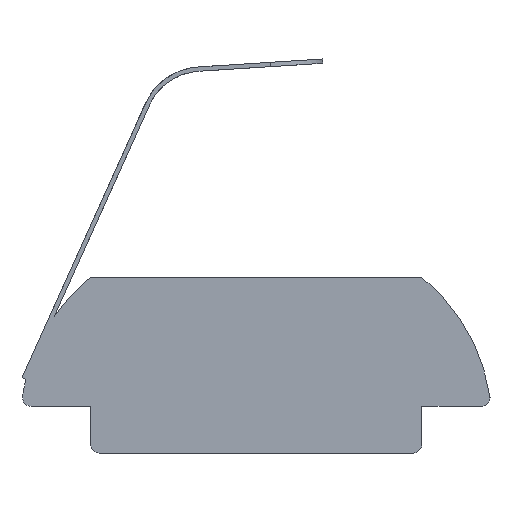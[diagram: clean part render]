
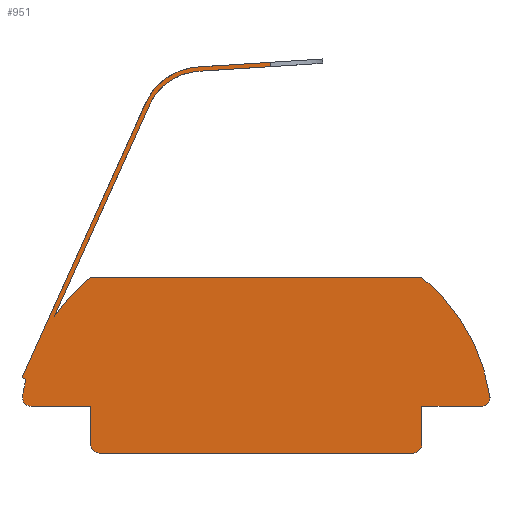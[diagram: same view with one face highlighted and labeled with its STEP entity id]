
A CAD part, left-side view. The second image highlights one B-rep face of the part: STEP entity #951.
In plain terms, the highlighted planar face has unit normal (-1, 0, 0).
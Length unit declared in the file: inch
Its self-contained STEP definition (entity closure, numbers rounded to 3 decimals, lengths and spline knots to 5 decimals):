
#205=DIRECTION('',(0.,-0.998,0.064));
#206=VECTOR('',#205,0.082);
#207=CARTESIAN_POINT('',(-0.3937,0.06484,
0.33944));
#208=LINE('',#207,#206);
#209=CARTESIAN_POINT('',(-0.3937,0.06243,
0.27248));
#210=DIRECTION('',(1.,0.,0.));
#211=DIRECTION('',(0.,0.893,0.45));
#212=AXIS2_PLACEMENT_3D('',#209,#210,#211);
#214=DIRECTION('',(0.,-0.411,0.912));
#215=VECTOR('',#214,0.27049);
#216=CARTESIAN_POINT('',(-0.3937,0.2333,
0.056));
#217=LINE('',#216,#215);
#218=CARTESIAN_POINT('',(-0.3937,0.05231,
-0.06907));
#219=DIRECTION('',(-1.,0.,0.));
#220=DIRECTION('',(0.,0.632,0.775));
#221=AXIS2_PLACEMENT_3D('',#218,#219,#220);
#223=DIRECTION('',(0.,1.,0.));
#224=VECTOR('',#223,0.3825);
#225=CARTESIAN_POINT('',(-0.3937,-0.19125,0.1015));
#226=LINE('',#225,#224);
#227=CARTESIAN_POINT('',(-0.3937,-0.05231,
-0.06907));
#228=DIRECTION('',(-1.,0.,0.));
#229=DIRECTION('',(0.,-0.989,0.15));
#230=AXIS2_PLACEMENT_3D('',#227,#228,#229);
#232=CARTESIAN_POINT('',(-0.3937,-0.25992,-0.0375));
#233=DIRECTION('',(-1.,0.,0.));
#234=DIRECTION('',(0.,0.,-1.));
#235=AXIS2_PLACEMENT_3D('',#232,#233,#234);
#237=DIRECTION('',(0.,-1.,0.));
#238=VECTOR('',#237,0.06867);
#239=CARTESIAN_POINT('',(-0.3937,-0.19125,-0.0475));
#240=LINE('',#239,#238);
#241=DIRECTION('',(0.,0.,1.));
#242=VECTOR('',#241,0.044);
#243=CARTESIAN_POINT('',(-0.3937,-0.19125,-0.0915));
#244=LINE('',#243,#242);
#245=CARTESIAN_POINT('',(-0.3937,-0.18125,-0.0915));
#246=DIRECTION('',(-1.,0.,0.));
#247=DIRECTION('',(0.,0.,-1.));
#248=AXIS2_PLACEMENT_3D('',#245,#246,#247);
#250=DIRECTION('',(0.,-1.,0.));
#251=VECTOR('',#250,0.3625);
#252=CARTESIAN_POINT('',(-0.3937,0.18125,-0.1015));
#253=LINE('',#252,#251);
#254=CARTESIAN_POINT('',(-0.3937,0.18125,-0.0915));
#255=DIRECTION('',(-1.,0.,0.));
#256=DIRECTION('',(0.,1.,0.));
#257=AXIS2_PLACEMENT_3D('',#254,#255,#256);
#259=DIRECTION('',(0.,0.,-1.));
#260=VECTOR('',#259,0.044);
#261=CARTESIAN_POINT('',(-0.3937,0.19125,-0.0475));
#262=LINE('',#261,#260);
#263=DIRECTION('',(0.,-1.,0.));
#264=VECTOR('',#263,0.06867);
#265=CARTESIAN_POINT('',(-0.3937,0.25992,-0.0475));
#266=LINE('',#265,#264);
#267=CARTESIAN_POINT('',(-0.3937,0.25992,-0.0375));
#268=DIRECTION('',(-1.,0.,0.));
#269=DIRECTION('',(0.,0.989,0.15));
#270=AXIS2_PLACEMENT_3D('',#267,#268,#269);
#272=CARTESIAN_POINT('',(-0.3937,0.05231,
-0.06907));
#273=DIRECTION('',(-1.,0.,0.));
#274=DIRECTION('',(0.,0.971,0.239));
#275=AXIS2_PLACEMENT_3D('',#272,#273,#274);
#277=DIRECTION('',(0.,-0.912,-0.411));
#278=VECTOR('',#277,0.005);
#279=CARTESIAN_POINT('',(-0.3937,0.2705,
-0.01445));
#280=LINE('',#279,#278);
#281=DIRECTION('',(0.,0.411,-0.912));
#282=VECTOR('',#281,0.35011);
#283=CARTESIAN_POINT('',(-0.3937,0.12677,
0.3048));
#284=LINE('',#283,#282);
#285=CARTESIAN_POINT('',(-0.3937,0.06243,
0.27248));
#286=DIRECTION('',(-1.,0.,0.));
#287=DIRECTION('',(0.,0.037,0.999));
#288=AXIS2_PLACEMENT_3D('',#285,#286,#287);
#290=DIRECTION('',(0.,0.998,-0.064));
#291=VECTOR('',#290,0.08193);
#292=CARTESIAN_POINT('',(-0.3937,-0.01667,
0.34966));
#293=LINE('',#292,#291);
#294=DIRECTION('',(0.,0.064,0.998));
#295=VECTOR('',#294,0.005);
#296=CARTESIAN_POINT('',(-0.3937,-0.01699,
0.34467));
#297=LINE('',#296,#295);
#528=CARTESIAN_POINT('',(-0.3937,-0.18125,-0.1015));
#530=VERTEX_POINT('',#528);
#543=CARTESIAN_POINT('',(-0.3937,-0.19125,-0.0915));
#544=CARTESIAN_POINT('',(-0.3937,-0.19125,-0.0475));
#545=VERTEX_POINT('',#543);
#546=VERTEX_POINT('',#544);
#547=CARTESIAN_POINT('',(-0.3937,-0.01667,
0.34966));
#549=VERTEX_POINT('',#547);
#551=CARTESIAN_POINT('',(-0.3937,0.06509,
0.34444));
#552=VERTEX_POINT('',#551);
#553=CARTESIAN_POINT('',(-0.3937,0.2705,
-0.01445));
#554=CARTESIAN_POINT('',(-0.3937,0.26594,-0.0165));
#555=VERTEX_POINT('',#553);
#556=VERTEX_POINT('',#554);
#557=CARTESIAN_POINT('',(-0.3937,-0.19125,0.1015));
#558=CARTESIAN_POINT('',(-0.3937,0.19125,0.1015));
#559=VERTEX_POINT('',#557);
#560=VERTEX_POINT('',#558);
#565=CARTESIAN_POINT('',(-0.3937,0.2333,
0.056));
#566=CARTESIAN_POINT('',(-0.3937,0.12226,
0.30265));
#567=VERTEX_POINT('',#565);
#568=VERTEX_POINT('',#566);
#569=CARTESIAN_POINT('',(-0.3937,0.12677,
0.3048));
#570=VERTEX_POINT('',#569);
#572=CARTESIAN_POINT('',(-0.3937,-0.01699,
0.34467));
#573=VERTEX_POINT('',#572);
#574=CARTESIAN_POINT('',(-0.3937,0.06484,
0.33944));
#575=VERTEX_POINT('',#574);
#582=CARTESIAN_POINT('',(-0.3937,0.18125,-0.1015));
#583=VERTEX_POINT('',#582);
#595=CARTESIAN_POINT('',(-0.3937,-0.25992,-0.0475));
#597=VERTEX_POINT('',#595);
#605=CARTESIAN_POINT('',(-0.3937,0.26981,
-0.036));
#606=VERTEX_POINT('',#605);
#609=CARTESIAN_POINT('',(-0.3937,-0.26981,
-0.036));
#610=VERTEX_POINT('',#609);
#617=CARTESIAN_POINT('',(-0.3937,0.19125,-0.0915));
#618=VERTEX_POINT('',#617);
#623=CARTESIAN_POINT('',(-0.3937,0.19125,-0.0475));
#624=VERTEX_POINT('',#623);
#625=CARTESIAN_POINT('',(-0.3937,0.25992,-0.0475));
#626=VERTEX_POINT('',#625);
#906=CARTESIAN_POINT('',(-0.3937,0.05231,
-0.06907));
#907=DIRECTION('',(-1.,0.,0.));
#908=DIRECTION('',(0.,0.,1.));
#909=AXIS2_PLACEMENT_3D('',#906,#907,#908);
#910=PLANE('',#909);
#912=ORIENTED_EDGE('',*,*,#911,.F.);
#914=ORIENTED_EDGE('',*,*,#913,.F.);
#915=ORIENTED_EDGE('',*,*,#851,.F.);
#916=ORIENTED_EDGE('',*,*,#879,.F.);
#917=ORIENTED_EDGE('',*,*,#889,.F.);
#919=ORIENTED_EDGE('',*,*,#918,.F.);
#921=ORIENTED_EDGE('',*,*,#920,.F.);
#923=ORIENTED_EDGE('',*,*,#922,.F.);
#925=ORIENTED_EDGE('',*,*,#924,.F.);
#927=ORIENTED_EDGE('',*,*,#926,.F.);
#929=ORIENTED_EDGE('',*,*,#928,.F.);
#931=ORIENTED_EDGE('',*,*,#930,.F.);
#933=ORIENTED_EDGE('',*,*,#932,.F.);
#935=ORIENTED_EDGE('',*,*,#934,.F.);
#937=ORIENTED_EDGE('',*,*,#936,.F.);
#939=ORIENTED_EDGE('',*,*,#938,.F.);
#941=ORIENTED_EDGE('',*,*,#940,.F.);
#942=ORIENTED_EDGE('',*,*,#808,.F.);
#944=ORIENTED_EDGE('',*,*,#943,.F.);
#946=ORIENTED_EDGE('',*,*,#945,.F.);
#948=ORIENTED_EDGE('',*,*,#947,.F.);
#949=EDGE_LOOP('',(#912,#914,#915,#916,#917,#919,#921,#923,#925,#927,#929,#931,
#933,#935,#937,#939,#941,#942,#944,#946,#948));
#950=FACE_OUTER_BOUND('',#949,.F.);
#213=CIRCLE('',#212,0.067);
#222=CIRCLE('',#221,0.22);
#231=CIRCLE('',#230,0.22);
#236=CIRCLE('',#235,0.01);
#249=CIRCLE('',#248,0.01);
#258=CIRCLE('',#257,0.01);
#271=CIRCLE('',#270,0.01);
#276=CIRCLE('',#275,0.22);
#289=CIRCLE('',#288,0.072);
#808=EDGE_CURVE('',#570,#555,#284,.T.);
#851=EDGE_CURVE('',#567,#568,#217,.T.);
#879=EDGE_CURVE('',#560,#567,#222,.T.);
#889=EDGE_CURVE('',#559,#560,#226,.T.);
#911=EDGE_CURVE('',#575,#573,#208,.T.);
#913=EDGE_CURVE('',#568,#575,#213,.T.);
#918=EDGE_CURVE('',#610,#559,#231,.T.);
#920=EDGE_CURVE('',#597,#610,#236,.T.);
#922=EDGE_CURVE('',#546,#597,#240,.T.);
#924=EDGE_CURVE('',#545,#546,#244,.T.);
#926=EDGE_CURVE('',#530,#545,#249,.T.);
#928=EDGE_CURVE('',#583,#530,#253,.T.);
#930=EDGE_CURVE('',#618,#583,#258,.T.);
#932=EDGE_CURVE('',#624,#618,#262,.T.);
#934=EDGE_CURVE('',#626,#624,#266,.T.);
#936=EDGE_CURVE('',#606,#626,#271,.T.);
#938=EDGE_CURVE('',#556,#606,#276,.T.);
#940=EDGE_CURVE('',#555,#556,#280,.T.);
#943=EDGE_CURVE('',#552,#570,#289,.T.);
#945=EDGE_CURVE('',#549,#552,#293,.T.);
#947=EDGE_CURVE('',#573,#549,#297,.T.);
#951=ADVANCED_FACE('',(#950),#910,.T.);
